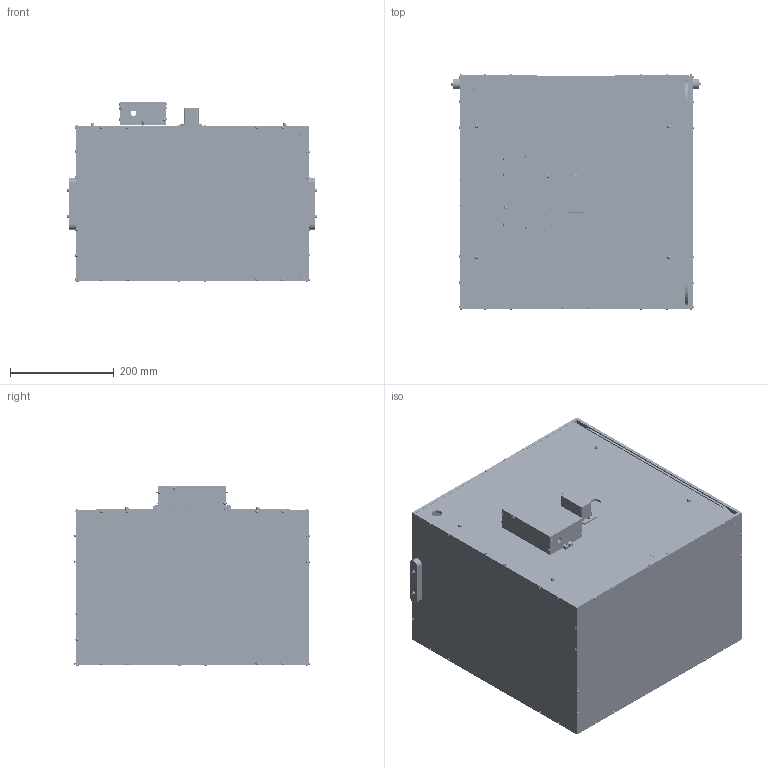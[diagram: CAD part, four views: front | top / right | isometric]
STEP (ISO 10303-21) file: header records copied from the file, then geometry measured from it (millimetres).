
FILE_DESCRIPTION(/* description */ (''),/* implementation_level */ '2;1');
FILE_NAME(/* name */ '/Users/leslieshaw/Desktop/SF_1.4_3D_Model.step',/* time_stamp */ '2018-08-31T02:56:23-07:00',/* author */ ('leslieshaw1023'),/* organization */ (''),/* preprocessor_version */ 'ST-DEVELOPER v17.2',/* originating_system */ 'Autodesk Translation Framework v7.6.0.251',/* authorisation */ '');
FILE_SCHEMA (('AUTOMOTIVE_DESIGN { 1 0 10303 214 3 1 1 }'));
Products named in the file (56): SF_Mechanical_Model; Quarter_scale_servo v1; Component65; light screws 90272A108_ZINC-PLTD STL PAN HEAD PHILLIPS MACHINE SCREW 
v1; light screws 90272A108_ZINC-PLTD STL PAN HEAD PHILLIPS MACHINE SCREW 
v1 (1); light screws 90272A108_ZINC-PLTD STL PAN HEAD PHILLIPS MACHINE SCREW 
v1 (2); light screws 90272A108_ZINC-PLTD STL PAN HEAD PHILLIPS MACHINE SCREW 
v1 (3); Sensor Fusion box rev. 1.1 (with screws) v6; motor plate v1; Right; Bottom; Left ; Front; Rail on Bottom; Sliding Door; Handle (front); Handle bottom (front); Top; Rail on Top (1); Handle (front) (1); Handle bottom (front) (1); Back (1); handle1 91251A150_BLACK-OXIDE ALLOY STEEL SOCKET HEAD CAP SCREW v1; handle1 91251A150_BLACK-OXIDE ALLOY STEEL SOCKET HEAD CAP SCREW v1 (1
); handle1 91251A150_BLACK-OXIDE ALLOY STEEL SOCKET HEAD CAP SCREW v1 (2
); handle1 91251A150_BLACK-OXIDE ALLOY STEEL SOCKET HEAD CAP SCREW v1 (3
); Light1; Hook1; Hook2; Light1 (1); Hook1 (1); Hook2 (1); Vinyl Right; Vinyl Back; Vinyl Front; Vinyl Left; Vinyl Bottom; Fixture; CL3-Step; 94320A644_SLOTTED HEAD NYLON THUMB SCREW ...
Assembly tree (150 placements, depth 4):
  SF_Mechanical_Model
    Quarter_scale_servo v1
      Component65
    light screws 90272A108_ZINC-PLTD STL PAN HEAD PHILLIPS MACHINE SCREW 
v1
    light screws 90272A108_ZINC-PLTD STL PAN HEAD PHILLIPS MACHINE SCREW 
v1 (1)
    light screws 90272A108_ZINC-PLTD STL PAN HEAD PHILLIPS MACHINE SCREW 
v1 (2)
    light screws 90272A108_ZINC-PLTD STL PAN HEAD PHILLIPS MACHINE SCREW 
v1 (3)
    Sensor Fusion box rev. 1.1 (with screws) v6
      motor plate v1
      Right
      Bottom
      Left 
      Front
      Rail on Bottom
      Sliding Door
      Handle (front)
      Handle bottom (front)
      Top
      Rail on Top (1)
      Handle (front) (1)
      Handle bottom (front) (1)
      Back (1)
    handle1 91251A150_BLACK-OXIDE ALLOY STEEL SOCKET HEAD CAP SCREW v1
    handle1 91251A150_BLACK-OXIDE ALLOY STEEL SOCKET HEAD CAP SCREW v1 (1
)
    handle1 91251A150_BLACK-OXIDE ALLOY STEEL SOCKET HEAD CAP SCREW v1 (2
)
    handle1 91251A150_BLACK-OXIDE ALLOY STEEL SOCKET HEAD CAP SCREW v1 (3
)
    Light1
    Hook1
    Hook2
    Light1 (1)
    Hook1 (1)
    Hook2 (1)
    Vinyl Right
    Vinyl Back
    Vinyl Front
    Vinyl Bottom  x2
    Vinyl Left
    90935A135_PAN HEAD PHILLIPS SCREW FOR SHEET METAL  x76
    Fixture
      CL3-Step  x3
      94320A644_SLOTTED HEAD NYLON THUMB SCREW  x6
      4-40 servo plate 91253A110_ALLOY STEEL FLAT-HEAD SOCKET CAP SCREW  x2
      4-40 nut93181A003_ALUMINUM HEX NUT  x2
      4 - 24 servo 90190A108_PAN HEAD PHILLIPS SCREW FOR SHEET METAL
      9657K286_STEEL COMPRESSION SPRING  x3
      Motor plate
      Component3
      Component4
      Component5
      roundtable mount
        plate
    91875A105  x4
    91249A119  x2
    93181A003  x2
    90272A148  x4
    servo control box abs
Bounding box: 481.04 x 454.48 x 348.98 mm (x, y, z)
Volume: 7116361.3 mm3; surface area: 4087200.8 mm2
Topology: 151 solids, 151 shells, 8941 faces, 25364 edges, 16929 vertices
Faces by surface type: cylinder 3578, plane 2718, bspline 1713, cone 743, torus 102, sphere 87
Full cylindrical faces by diameter (mm): 1.699 x767, 2.02 x172, 2.474 x136, 2.5 x81, 2.705 x9, 2.845 x785, 3 x37, 3.135 x6, 3.505 x148, 3.556 x4, 4.7 x150, 5 x6, 5.5 x16, 5.563 x6, 5.715 x1, 5.74 x4, 6.35 x141, 6.477 x2, 6.858 x4, 7 x1, 10.922 x1, 11 x1, 12.373 x1, 12.507 x1, 12.657 x1, 13.856 x1, 20 x3
Entity records: 129322 total; most frequent: CARTESIAN_POINT 77408, ORIENTED_EDGE 11020, DIRECTION 9642, EDGE_CURVE 5510, VERTEX_POINT 3641, AXIS2_PLACEMENT_3D 3517, LINE 2608, VECTOR 2608
